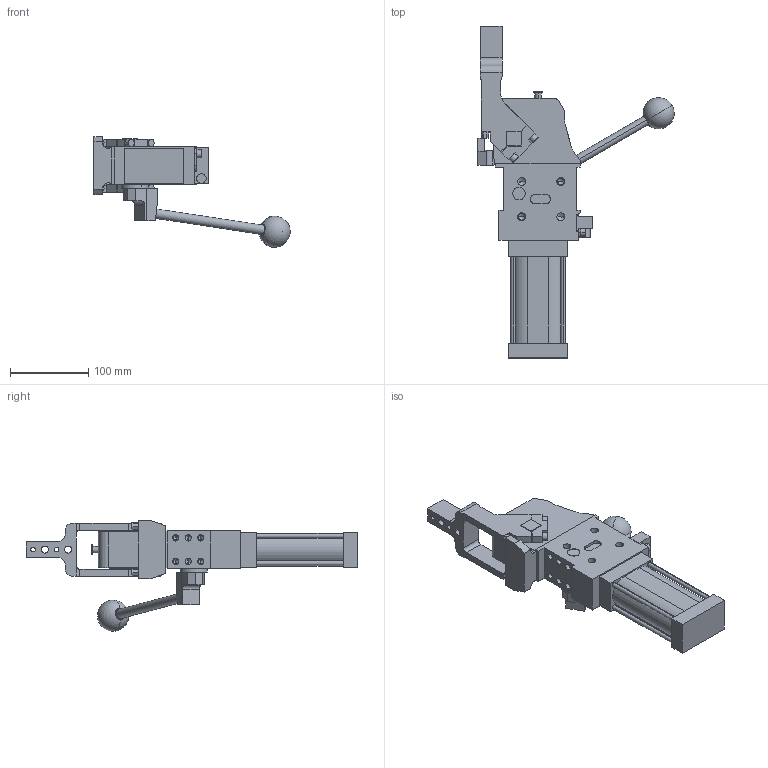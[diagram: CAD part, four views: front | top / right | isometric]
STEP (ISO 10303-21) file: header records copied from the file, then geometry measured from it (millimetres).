
FILE_DESCRIPTION (( 'STEP AP214' ), '1' );
FILE_NAME ('cplm50lbth1ci1g_107.STEP', '2023-01-26T13:26:35', ( '' ), ( '' ), 'SwSTEP 2.0', 'SolidWorks 2022', '' );
FILE_SCHEMA (( 'AUTOMOTIVE_DESIGN' ));
Length unit declared in the file: millimetre
Products named in the file (5): blocchetto_VEP_0; comando_manuale_cplm_50; meccanica_cplm_50_tassello_esterno; cplm50lbth1ci1g_107; leva_h1c_cpl50t
Assembly tree (4 placements, depth 2):
  cplm50lbth1ci1g_107
    meccanica_cplm_50_tassello_esterno
    blocchetto_VEP_0
    leva_h1c_cpl50t
    comando_manuale_cplm_50
Bounding box: 250.96 x 424.5 x 141.5 mm (x, y, z)
Volume: 1491601.5 mm3; surface area: 186950.4 mm2
Topology: 4 solids, 4 shells, 466 faces, 1209 edges, 757 vertices
Faces by surface type: plane 245, cylinder 169, cone 50, sphere 2
Entity records: 15494 total; most frequent: CARTESIAN_POINT 2467, DIRECTION 2456, ORIENTED_EDGE 2316, EDGE_CURVE 1158, AXIS2_PLACEMENT_3D 833, LINE 790, VECTOR 790, VERTEX_POINT 754
